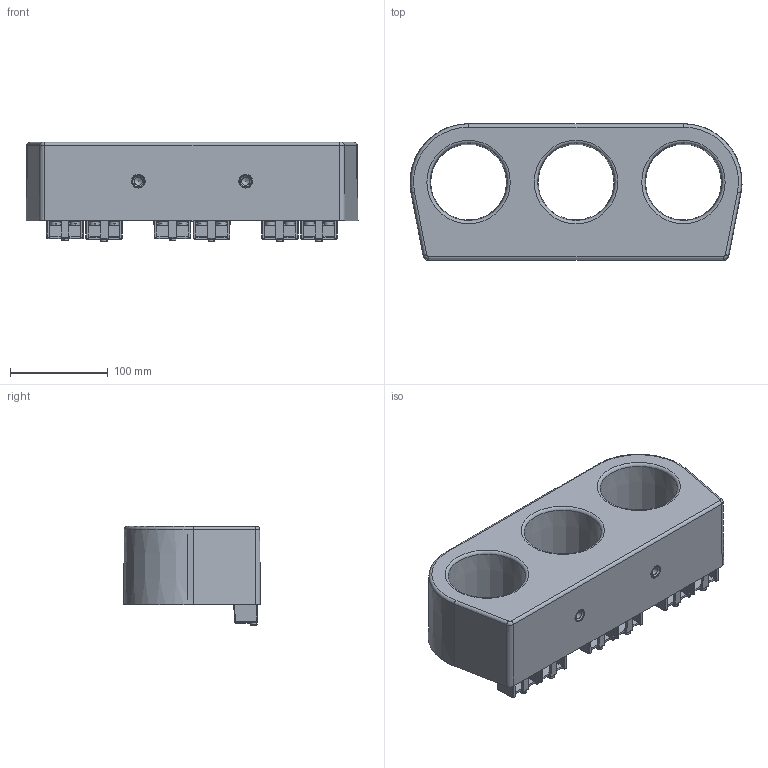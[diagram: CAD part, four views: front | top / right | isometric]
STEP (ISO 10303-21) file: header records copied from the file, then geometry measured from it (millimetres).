
FILE_DESCRIPTION(('STEP AP203'), '1');
FILE_NAME('ﾒﾘﾏ-ﾍﾒﾇ-0,66-41', '2025-04-11T09:20:23', ('UNSPECIFIED'), ('UNSPECIFIED'), 'ASCON STEP Converter 1.3', 'ASCON Math Kernel', '');
FILE_SCHEMA(('CONFIG_CONTROL_DESIGN'));
Length unit declared in the file: millimetre
Assembly tree (46 placements, depth 2):
  (unnamed)
    (unnamed)
    (unnamed)
    (unnamed)  x12
    (unnamed)  x6
    (unnamed)  x12
    (unnamed)  x6
    (unnamed)  x6
    (unnamed)  x2
Bounding box: 339.94 x 140 x 101.6 mm (x, y, z)
Volume: 2421646.5 mm3; surface area: 560625 mm2
Topology: 46 solids, 46 shells, 922 faces, 2073 edges, 1263 vertices
Faces by surface type: plane 432, cylinder 230, cone 165, bspline 48, torus 47
Full cylindrical faces by diameter (mm): 3.244 x6, 4 x6, 4.5 x6, 4.8 x12, 4.92 x12, 6 x12, 7 x6, 7.1 x12, 8 x6, 8.376 x2, 10 x36, 12 x12, 13 x2, 14 x4, 15 x2
Entity records: 9868 total; most frequent: CARTESIAN_POINT 2129, DIRECTION 1076, ORIENTED_EDGE 802, AXIS2_PLACEMENT_3D 444, EDGE_CURVE 401, EDGE_LOOP 332, VERTEX_POINT 293, COLOUR_RGB 226
